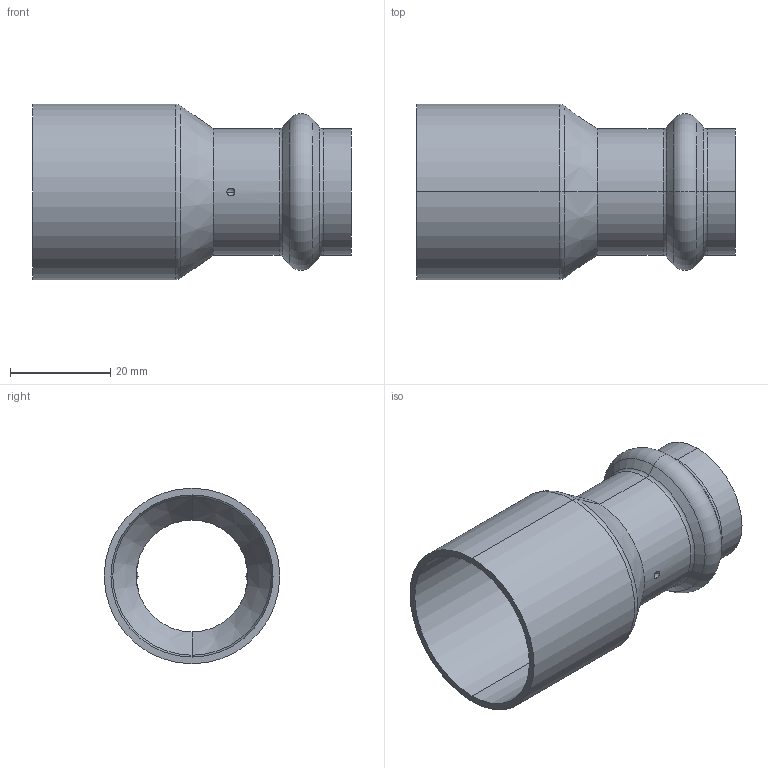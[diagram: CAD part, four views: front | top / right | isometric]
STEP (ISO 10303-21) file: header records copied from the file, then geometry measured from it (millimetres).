
FILE_DESCRIPTION (( 'STEP AP203' ), '1' );
FILE_NAME ('SP5243 35-22.STEP', '2017-04-24T09:06:03', ( '' ), ( '' ), 'SwSTEP 2.0', 'SolidWorks 2016', '' );
FILE_SCHEMA (( 'CONFIG_CONTROL_DESIGN' ));
Length unit declared in the file: millimetre
Products named in the file (1): SP5243 35-22
Bounding box: 63.5 x 35 x 35 mm (x, y, z)
Volume: 8615.9 mm3; surface area: 12581.7 mm2
Topology: 1 solids, 1 shells, 50 faces, 100 edges, 56 vertices
Faces by surface type: torus 16, cylinder 12, cone 12, sphere 8, plane 2
Entity records: 1485 total; most frequent: CARTESIAN_POINT 331, DIRECTION 262, ORIENTED_EDGE 200, AXIS2_PLACEMENT_3D 119, EDGE_CURVE 100, CIRCLE 68, VERTEX_POINT 56, EDGE_LOOP 56
